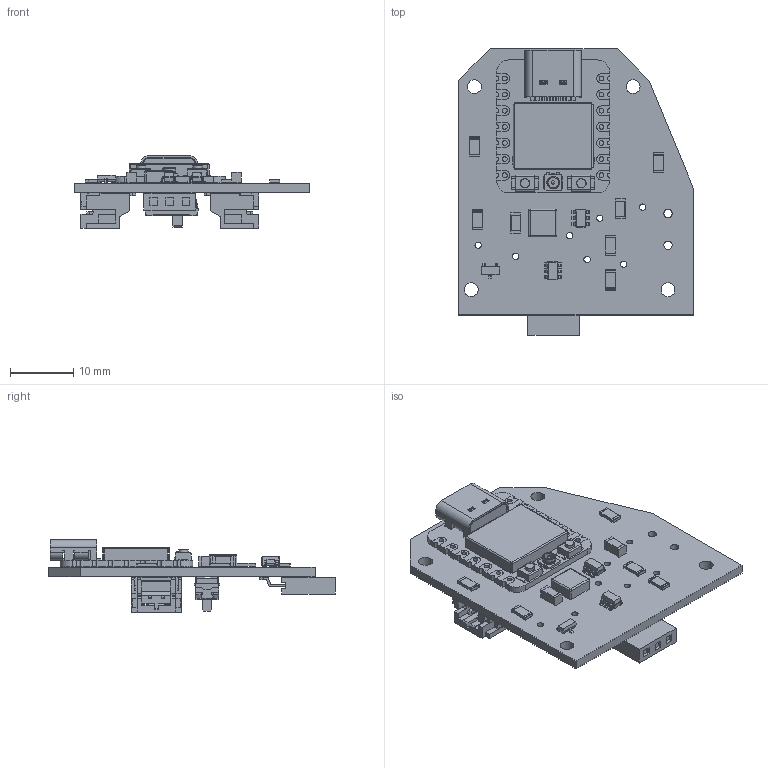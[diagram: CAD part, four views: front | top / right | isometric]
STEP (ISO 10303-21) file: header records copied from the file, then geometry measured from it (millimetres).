
FILE_DESCRIPTION(('KiCad electronic assembly'),'2;1');
FILE_NAME('cromira_xiao.step','2025-05-18T10:36:09',('Pcbnew'),('Kicad') ,'Open CASCADE STEP processor 7.8','KiCad to STEP converter','Unknown' );
FILE_SCHEMA(('AUTOMOTIVE_DESIGN { 1 0 10303 214 1 1 1 1 }'));
Length unit declared in the file: millimetre
Products named in the file (43): cromira_xiao 1; L_Abracon_ASPIAIG-F4020; C_1206_3216Metric; R_1206_3216Metric; SOT-23-6; Seeed Studio XIAO-ESP32-C3; USB TYPE C PORT; USB TYPE C PORT (1); BOSS-EXTRUDE14_8_; BOSS-EXTRUDE7_4_; BOSS-EXTRUDE7_3_; BOSS-EXTRUDE14_4_; BOSS-EXTRUDE14_2_; BOSS-EXTRUDE14_11_; BOSS-EXTRUDE7_7_; BOSS-EXTRUDE14_9_; BOSS-EXTRUDE14_3_; BOSS-EXTRUDE14_7_; MIRROR2; BOSS-EXTRUDE14_5_; BOSS-EXTRUDE14_12_; BOSS-EXTRUDE7_8_; BOSS-EXTRUDE7_1_; BOSS-EXTRUDE14_10_; BOSS-EXTRUDE7_9_; BOSS-EXTRUDE14_6_; CHAMFER9; BOSS-EXTRUDE14_1_; BOSS-EXTRUDE7_6_; BOSS-EXTRUDE7_2_; CUT-EXTRUDE5; BOSS-EXTRUDE7_5_; U.FL Connector v1; Button (1); Shield; SOLID; SI2336DS-T1-GE3; JS102011JCQN; BG300-03-X-X-A_REVC; body^BG301-xxx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
Assembly tree (52 placements, depth 5):
  cromira_xiao 1
    L_Abracon_ASPIAIG-F4020
    C_1206_3216Metric  x2
    R_1206_3216Metric  x5
    SOT-23-6  x2
    Seeed Studio XIAO-ESP32-C3
      USB TYPE C PORT
        USB TYPE C PORT (1)
          BOSS-EXTRUDE14_8_
          BOSS-EXTRUDE7_4_
          BOSS-EXTRUDE7_3_
          BOSS-EXTRUDE14_4_
          BOSS-EXTRUDE14_2_
          BOSS-EXTRUDE14_11_
          BOSS-EXTRUDE7_7_
          BOSS-EXTRUDE14_9_
          BOSS-EXTRUDE14_3_
          BOSS-EXTRUDE14_7_
          MIRROR2
          BOSS-EXTRUDE14_5_
          BOSS-EXTRUDE14_12_
          BOSS-EXTRUDE7_8_
          BOSS-EXTRUDE7_1_
          BOSS-EXTRUDE14_10_
          BOSS-EXTRUDE7_9_
          BOSS-EXTRUDE14_6_
          CHAMFER9
          BOSS-EXTRUDE14_1_
          BOSS-EXTRUDE7_6_
          BOSS-EXTRUDE7_2_
          CUT-EXTRUDE5
          BOSS-EXTRUDE7_5_
      U.FL Connector v1
      Button (1)  x2
      Shield
      SOLID
    SI2336DS-T1-GE3
    JS102011JCQN
    BG300-03-X-X-A_REVC
      body^BG301-xxx
      pin^BG301-xxx  x3
    S2B-PH-SM4-TB  x2
    cromira_xiao_PCB
Bounding box: 37 x 45.23 x 11.39 mm (x, y, z)
Volume: 3341.7 mm3; surface area: 6837.9 mm2
Topology: 69 solids, 69 shells, 2017 faces, 5260 edges, 3389 vertices
Faces by surface type: plane 1500, cylinder 421, bspline 62, torus 14, sphere 11, cone 9
Full cylindrical faces by diameter (mm): 0.5 x3, 0.6 x2, 0.7 x2, 0.75 x14, 1 x9, 1.3 x2, 1.5 x2, 1.524 x6, 1.65 x1, 1.9 x1, 2 x2, 2.2 x4
Entity records: 51611 total; most frequent: CARTESIAN_POINT 8615, ORIENTED_EDGE 8006, DIRECTION 7803, EDGE_CURVE 4003, LINE 3269, VECTOR 3269, VERTEX_POINT 2587, AXIS2_PLACEMENT_3D 2267
